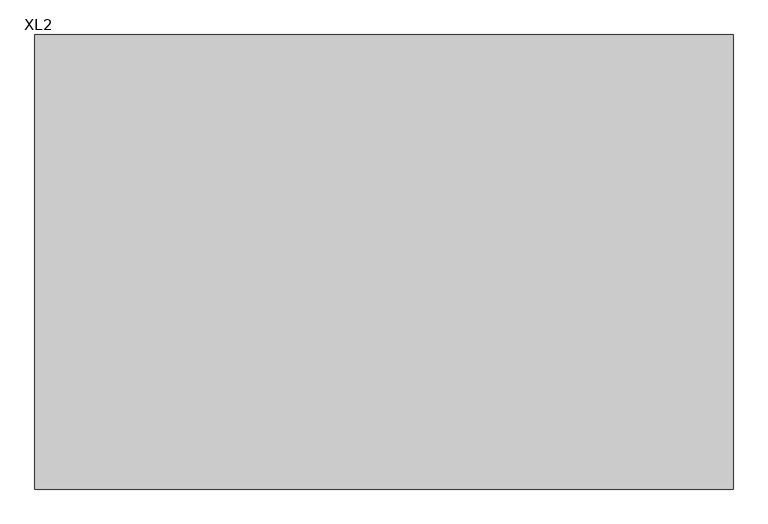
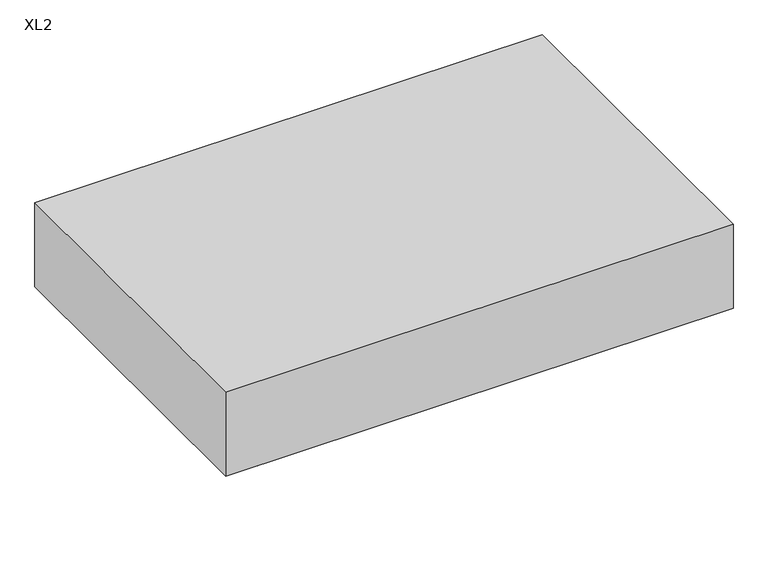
"""IFC4 building model written with IfcOpenShell, lengths in millimetres: proxy geometry, OWA Corpus : XL2."""

from ifc_helpers import new_model, si_unit, point, frame, frame_2d, origin, place, context, project, spatial, polyline, circle_curve, trimmed, segment, composite_curve, outline, extrude, faceted_brep, source, transform, mapped, element, save
from ifc_brep_helpers import plane_surface, cylinder_surface, revolved_surface, advanced_brep


def xl2_f6d5a700(model_context):
    return source(origin(), model_context, "Body", "SolidModel", [
        advanced_brep(
        [(-1043.5, -305.0, 0.0), (-1035.7593825, -305.0, 0.0), (-1051.2406175, -305.0, 0.0), (-1035.7593825, -305.0, 15.0), (-1051.2406175, -305.0, 15.0), (-1036.6843825, -305.0, 15.0), (-1050.3156175, -305.0, 15.0), (-1036.6843825, -305.0, 19.0), (-1050.3156175, -305.0, 19.0), (-1041.4343825, -305.0, 19.0), (-1045.5656175, -305.0, 19.0), (-1041.4343825, -305.0, 22.546183), (-1045.5656175, -305.0, 22.546183), (-1043.5, -305.0, 22.546183)],
        [
            (0, 1),
            (1, 2, circle_curve(frame((-1043.5, -305.0, 0.0), z_axis=(0.0, 0.0, -1.0), x_axis=(-1.0, 0.0, 0.0)), 7.7406175)),
            (2, 0),
            (2, 1, circle_curve(frame((-1043.5, -305.0, 0.0), z_axis=(0.0, 0.0, -1.0), x_axis=(-1.0, 0.0, 0.0)), 7.7406175)),
            (1, 3),
            (3, 4, circle_curve(frame((-1043.5, -305.0, 15.0), z_axis=(0.0, 0.0, -1.0), x_axis=(-1.0, 0.0, 0.0)), 7.7406175)),
            (4, 2),
            (4, 3, circle_curve(frame((-1043.5, -305.0, 15.0), z_axis=(0.0, 0.0, -1.0), x_axis=(-1.0, 0.0, 0.0)), 7.7406175)),
            (3, 5),
            (5, 6, circle_curve(frame((-1043.5, -305.0, 15.0), z_axis=(0.0, 0.0, -1.0), x_axis=(-1.0, 0.0, 0.0)), 6.8156175)),
            (6, 4),
            (6, 5, circle_curve(frame((-1043.5, -305.0, 15.0), z_axis=(0.0, 0.0, -1.0), x_axis=(-1.0, 0.0, 0.0)), 6.8156175)),
            (5, 7),
            (7, 8, circle_curve(frame((-1043.5, -305.0, 19.0), z_axis=(0.0, 0.0, -1.0), x_axis=(-1.0, 0.0, 0.0)), 6.8156175)),
            (8, 6),
            (8, 7, circle_curve(frame((-1043.5, -305.0, 19.0), z_axis=(0.0, 0.0, -1.0), x_axis=(-1.0, 0.0, 0.0)), 6.8156175)),
            (7, 9),
            (9, 10, circle_curve(frame((-1043.5, -305.0, 19.0), z_axis=(0.0, 0.0, -1.0), x_axis=(-1.0, 0.0, 0.0)), 2.0656175)),
            (10, 8),
            (10, 9, circle_curve(frame((-1043.5, -305.0, 19.0), z_axis=(0.0, 0.0, -1.0), x_axis=(-1.0, 0.0, 0.0)), 2.0656175)),
            (9, 11),
            (11, 12, circle_curve(frame((-1043.5, -305.0, 22.546183), z_axis=(0.0, 0.0, -1.0), x_axis=(-1.0, 0.0, 0.0)), 2.0656175)),
            (12, 10),
            (12, 11, circle_curve(frame((-1043.5, -305.0, 22.546183), z_axis=(0.0, 0.0, -1.0), x_axis=(-1.0, 0.0, 0.0)), 2.0656175)),
            (11, 13),
            (13, 12),
        ],
        [
            plane_surface(frame((-1043.5, -305.0, 0.0), z_axis=(0.0, 0.0, -1.0), x_axis=(-1.0, 0.0, 0.0))),
            cylinder_surface(frame((-1043.5, -305.0, -10.0), z_axis=(0.0, 0.0, -1.0), x_axis=(-1.0, 0.0, 0.0)), 7.7406175),
            plane_surface(frame((-1043.5, -305.0, 15.0), z_axis=(0.0, 0.0, 1.0), x_axis=(-1.0, 0.0, 0.0))),
            cylinder_surface(frame((-1043.5, -305.0, -10.0), z_axis=(0.0, 0.0, -1.0), x_axis=(-1.0, 0.0, 0.0)), 6.8156175),
            plane_surface(frame((-1043.5, -305.0, 19.0), z_axis=(0.0, 0.0, 1.0), x_axis=(-1.0, 0.0, 0.0))),
            cylinder_surface(frame((-1043.5, -305.0, -10.0), z_axis=(0.0, 0.0, -1.0), x_axis=(-1.0, 0.0, 0.0)), 2.0656175),
            plane_surface(frame((-1043.5, -305.0, 22.546183), z_axis=(0.0, 0.0, 1.0), x_axis=(-1.0, 0.0, 0.0))),
        ],
        [
            (0, [[1, 2, 3]]),
            (0, [[-3, 4, -1]]),
            (1, [[5, 6, 7, -2]]),
            (1, [[-7, 8, -5, -4]]),
            (2, [[9, 10, 11, -6]]),
            (2, [[-11, 12, -9, -8]]),
            (3, [[13, 14, 15, -10]]),
            (3, [[-15, 16, -13, -12]]),
            (4, [[17, 18, 19, -14]]),
            (4, [[-19, 20, -17, -16]]),
            (5, [[21, 22, 23, -18]]),
            (5, [[-23, 24, -21, -20]]),
            (6, [[25, 26, -22]]),
            (6, [[-26, -25, -24]]),
        ],
    ),
        advanced_brep(
        [(-1041.2615389, -305.0, 428.8211737), (-1041.1339453, -305.0, 432.8711737), (-1045.8660547, -305.0, 432.8711737), (-1045.7384611, -305.0, 428.8211737), (-1038.6339453, -305.0, 432.8711737), (-1048.3660547, -305.0, 432.8711737), (-1038.6339453, -305.0, 458.1211737), (-1048.3660547, -305.0, 458.1211737), (-1027.6339453, -305.0, 458.1211737), (-1059.3660547, -305.0, 458.1211737), (-1027.6339453, -305.0, 460.0), (-1059.3660547, -305.0, 460.0), (-1043.5, -305.0, 460.0), (-1043.5, -305.0, 428.8211737)],
        [
            (0, 1),
            (1, 2, circle_curve(frame((-1043.5, -305.0, 432.8711737), z_axis=(0.0, 0.0, -1.0), x_axis=(-1.0, 0.0, 0.0)), 2.3660547)),
            (2, 3),
            (3, 0, circle_curve(frame((-1043.5, -305.0, 428.8211737), z_axis=(0.0, 0.0, 1.0), x_axis=(-1.0, 0.0, 0.0)), 2.2384611)),
            (2, 1, circle_curve(frame((-1043.5, -305.0, 432.8711737), z_axis=(0.0, 0.0, -1.0), x_axis=(-1.0, 0.0, 0.0)), 2.3660547)),
            (0, 3, circle_curve(frame((-1043.5, -305.0, 428.8211737), z_axis=(0.0, 0.0, 1.0), x_axis=(-1.0, 0.0, 0.0)), 2.2384611)),
            (1, 4),
            (4, 5, circle_curve(frame((-1043.5, -305.0, 432.8711737), z_axis=(0.0, 0.0, -1.0), x_axis=(-1.0, 0.0, 0.0)), 4.8660547)),
            (5, 2),
            (5, 4, circle_curve(frame((-1043.5, -305.0, 432.8711737), z_axis=(0.0, 0.0, -1.0), x_axis=(-1.0, 0.0, 0.0)), 4.8660547)),
            (4, 6),
            (6, 7, circle_curve(frame((-1043.5, -305.0, 458.1211737), z_axis=(0.0, 0.0, -1.0), x_axis=(-1.0, 0.0, 0.0)), 4.8660547)),
            (7, 5),
            (7, 6, circle_curve(frame((-1043.5, -305.0, 458.1211737), z_axis=(0.0, 0.0, -1.0), x_axis=(-1.0, 0.0, 0.0)), 4.8660547)),
            (6, 8),
            (8, 9, circle_curve(frame((-1043.5, -305.0, 458.1211737), z_axis=(0.0, 0.0, -1.0), x_axis=(-1.0, 0.0, 0.0)), 15.8660547)),
            (9, 7),
            (9, 8, circle_curve(frame((-1043.5, -305.0, 458.1211737), z_axis=(0.0, 0.0, -1.0), x_axis=(-1.0, 0.0, 0.0)), 15.8660547)),
            (8, 10),
            (10, 11, circle_curve(frame((-1043.5, -305.0, 460.0), z_axis=(0.0, 0.0, -1.0), x_axis=(-1.0, 0.0, 0.0)), 15.8660547)),
            (11, 9),
            (11, 10, circle_curve(frame((-1043.5, -305.0, 460.0), z_axis=(0.0, 0.0, -1.0), x_axis=(-1.0, 0.0, 0.0)), 15.8660547)),
            (10, 12),
            (12, 11),
            (13, 0),
            (3, 13),
        ],
        [
            revolved_surface(polyline([(-1045.8660547, -305.0, 432.8711737), (-1045.7384611, -305.0, 428.8211737)]), (-1043.5, -305.0, 461.8401096), (0.0, 0.0, -1.0)),
            plane_surface(frame((-1043.5, -305.0, 432.8711737), z_axis=(0.0, 0.0, -1.0), x_axis=(-1.0, 0.0, 0.0))),
            cylinder_surface(frame((-1043.5, -305.0, 461.8401096), z_axis=(0.0, 0.0, -1.0), x_axis=(-1.0, 0.0, 0.0)), 4.8660547),
            plane_surface(frame((-1043.5, -305.0, 458.1211737), z_axis=(0.0, 0.0, -1.0), x_axis=(-1.0, 0.0, 0.0))),
            cylinder_surface(frame((-1043.5, -305.0, 461.8401096), z_axis=(0.0, 0.0, -1.0), x_axis=(-1.0, 0.0, 0.0)), 15.8660547),
            plane_surface(frame((-1043.5, -305.0, 460.0), z_axis=(0.0, 0.0, 1.0), x_axis=(-1.0, 0.0, 0.0))),
            plane_surface(frame((-1043.5, -305.0, 428.8211737), z_axis=(0.0, 0.0, -1.0), x_axis=(-1.0, 0.0, 0.0))),
        ],
        [
            (0, [[1, 2, 3, 4]]),
            (0, [[-3, 5, -1, 6]]),
            (1, [[7, 8, 9, -2]]),
            (1, [[-9, 10, -7, -5]]),
            (2, [[11, 12, 13, -8]]),
            (2, [[-13, 14, -11, -10]]),
            (3, [[15, 16, 17, -12]]),
            (3, [[-17, 18, -15, -14]]),
            (4, [[19, 20, 21, -16]]),
            (4, [[-21, 22, -19, -18]]),
            (5, [[23, 24, -20]]),
            (5, [[-24, -23, -22]]),
            (6, [[25, -4, 26]]),
            (6, [[-26, -6, -25]]),
        ],
    ),
        extrude(outline(composite_curve([segment(trimmed(circle_curve(frame_2d((-1043.5, -305.0)), 1.0), [point((-1044.5, -305.0))], [point((-1042.5, -305.0))], False, "CARTESIAN"), True, "CONTINUOUS"), segment(trimmed(circle_curve(frame_2d((-1043.5, -305.0)), 1.0), [point((-1042.5, -305.0))], [point((-1044.5, -305.0))], False, "CARTESIAN"), True, "CONTINUOUS")], self_intersect=False)), frame((0.0, 0.0, 22.546183), z_axis=(0.0, 0.0, 1.0), x_axis=(1.0, 0.0, 0.0)), (0.0, 0.0, 1.0), 406.2749908),
        advanced_brep(
        [(-1043.5, 305.0, 0.0), (-1051.2406175, 305.0, 0.0), (-1035.7593825, 305.0, 0.0), (-1051.2406175, 305.0, 15.0), (-1035.7593825, 305.0, 15.0), (-1050.3156175, 305.0, 15.0), (-1036.6843825, 305.0, 15.0), (-1050.3156175, 305.0, 19.0), (-1036.6843825, 305.0, 19.0), (-1045.5656175, 305.0, 19.0), (-1041.4343825, 305.0, 19.0), (-1045.5656175, 305.0, 22.546183), (-1041.4343825, 305.0, 22.546183), (-1043.5, 305.0, 22.546183)],
        [
            (0, 1),
            (1, 2, circle_curve(frame((-1043.5, 305.0, 0.0), z_axis=(0.0, 0.0, -1.0), x_axis=(-1.0, 0.0, 0.0)), 7.7406175)),
            (2, 0),
            (2, 1, circle_curve(frame((-1043.5, 305.0, 0.0), z_axis=(0.0, 0.0, -1.0), x_axis=(-1.0, 0.0, 0.0)), 7.7406175)),
            (1, 3),
            (3, 4, circle_curve(frame((-1043.5, 305.0, 15.0), z_axis=(0.0, 0.0, -1.0), x_axis=(-1.0, 0.0, 0.0)), 7.7406175)),
            (4, 2),
            (4, 3, circle_curve(frame((-1043.5, 305.0, 15.0), z_axis=(0.0, 0.0, -1.0), x_axis=(-1.0, 0.0, 0.0)), 7.7406175)),
            (3, 5),
            (5, 6, circle_curve(frame((-1043.5, 305.0, 15.0), z_axis=(0.0, 0.0, -1.0), x_axis=(-1.0, 0.0, 0.0)), 6.8156175)),
            (6, 4),
            (6, 5, circle_curve(frame((-1043.5, 305.0, 15.0), z_axis=(0.0, 0.0, -1.0), x_axis=(-1.0, 0.0, 0.0)), 6.8156175)),
            (5, 7),
            (7, 8, circle_curve(frame((-1043.5, 305.0, 19.0), z_axis=(0.0, 0.0, -1.0), x_axis=(-1.0, 0.0, 0.0)), 6.8156175)),
            (8, 6),
            (8, 7, circle_curve(frame((-1043.5, 305.0, 19.0), z_axis=(0.0, 0.0, -1.0), x_axis=(-1.0, 0.0, 0.0)), 6.8156175)),
            (7, 9),
            (9, 10, circle_curve(frame((-1043.5, 305.0, 19.0), z_axis=(0.0, 0.0, -1.0), x_axis=(-1.0, 0.0, 0.0)), 2.0656175)),
            (10, 8),
            (10, 9, circle_curve(frame((-1043.5, 305.0, 19.0), z_axis=(0.0, 0.0, -1.0), x_axis=(-1.0, 0.0, 0.0)), 2.0656175)),
            (9, 11),
            (11, 12, circle_curve(frame((-1043.5, 305.0, 22.546183), z_axis=(0.0, 0.0, -1.0), x_axis=(-1.0, 0.0, 0.0)), 2.0656175)),
            (12, 10),
            (12, 11, circle_curve(frame((-1043.5, 305.0, 22.546183), z_axis=(0.0, 0.0, -1.0), x_axis=(-1.0, 0.0, 0.0)), 2.0656175)),
            (11, 13),
            (13, 12),
        ],
        [
            plane_surface(frame((-1043.5, 305.0, 0.0), z_axis=(0.0, 0.0, -1.0), x_axis=(-1.0, 0.0, 0.0))),
            cylinder_surface(frame((-1043.5, 305.0, -10.0), z_axis=(0.0, 0.0, -1.0), x_axis=(-1.0, 0.0, 0.0)), 7.7406175),
            plane_surface(frame((-1043.5, 305.0, 15.0), z_axis=(0.0, 0.0, 1.0), x_axis=(-1.0, 0.0, 0.0))),
            cylinder_surface(frame((-1043.5, 305.0, -10.0), z_axis=(0.0, 0.0, -1.0), x_axis=(-1.0, 0.0, 0.0)), 6.8156175),
            plane_surface(frame((-1043.5, 305.0, 19.0), z_axis=(0.0, 0.0, 1.0), x_axis=(-1.0, 0.0, 0.0))),
            cylinder_surface(frame((-1043.5, 305.0, -10.0), z_axis=(0.0, 0.0, -1.0), x_axis=(-1.0, 0.0, 0.0)), 2.0656175),
            plane_surface(frame((-1043.5, 305.0, 22.546183), z_axis=(0.0, 0.0, 1.0), x_axis=(-1.0, 0.0, 0.0))),
        ],
        [
            (0, [[1, 2, 3]]),
            (0, [[-3, 4, -1]]),
            (1, [[-2, 5, 6, 7]]),
            (1, [[-4, -7, 8, -5]]),
            (2, [[-6, 9, 10, 11]]),
            (2, [[-8, -11, 12, -9]]),
            (3, [[-10, 13, 14, 15]]),
            (3, [[-12, -15, 16, -13]]),
            (4, [[-14, 17, 18, 19]]),
            (4, [[-16, -19, 20, -17]]),
            (5, [[-18, 21, 22, 23]]),
            (5, [[-20, -23, 24, -21]]),
            (6, [[-22, 25, 26]]),
            (6, [[-24, -26, -25]]),
        ],
    ),
        advanced_brep(
        [(-1041.2615389, 305.0, 428.8211737), (-1045.7384611, 305.0, 428.8211737), (-1045.8660547, 305.0, 432.8711737), (-1041.1339453, 305.0, 432.8711737), (-1048.3660547, 305.0, 432.8711737), (-1038.6339453, 305.0, 432.8711737), (-1048.3660547, 305.0, 458.1211737), (-1038.6339453, 305.0, 458.1211737), (-1059.3660547, 305.0, 458.1211737), (-1027.6339453, 305.0, 458.1211737), (-1059.3660547, 305.0, 460.0), (-1027.6339453, 305.0, 460.0), (-1043.5, 305.0, 460.0), (-1043.5, 305.0, 428.8211737)],
        [
            (0, 1, circle_curve(frame((-1043.5, 305.0, 428.8211737), z_axis=(0.0, 0.0, 1.0), x_axis=(-1.0, 0.0, 0.0)), 2.2384611)),
            (1, 2),
            (2, 3, circle_curve(frame((-1043.5, 305.0, 432.8711737), z_axis=(0.0, 0.0, -1.0), x_axis=(-1.0, 0.0, 0.0)), 2.3660547)),
            (3, 0),
            (1, 0, circle_curve(frame((-1043.5, 305.0, 428.8211737), z_axis=(0.0, 0.0, 1.0), x_axis=(-1.0, 0.0, 0.0)), 2.2384611)),
            (3, 2, circle_curve(frame((-1043.5, 305.0, 432.8711737), z_axis=(0.0, 0.0, -1.0), x_axis=(-1.0, 0.0, 0.0)), 2.3660547)),
            (2, 4),
            (4, 5, circle_curve(frame((-1043.5, 305.0, 432.8711737), z_axis=(0.0, 0.0, -1.0), x_axis=(-1.0, 0.0, 0.0)), 4.8660547)),
            (5, 3),
            (5, 4, circle_curve(frame((-1043.5, 305.0, 432.8711737), z_axis=(0.0, 0.0, -1.0), x_axis=(-1.0, 0.0, 0.0)), 4.8660547)),
            (4, 6),
            (6, 7, circle_curve(frame((-1043.5, 305.0, 458.1211737), z_axis=(0.0, 0.0, -1.0), x_axis=(-1.0, 0.0, 0.0)), 4.8660547)),
            (7, 5),
            (7, 6, circle_curve(frame((-1043.5, 305.0, 458.1211737), z_axis=(0.0, 0.0, -1.0), x_axis=(-1.0, 0.0, 0.0)), 4.8660547)),
            (6, 8),
            (8, 9, circle_curve(frame((-1043.5, 305.0, 458.1211737), z_axis=(0.0, 0.0, -1.0), x_axis=(-1.0, 0.0, 0.0)), 15.8660547)),
            (9, 7),
            (9, 8, circle_curve(frame((-1043.5, 305.0, 458.1211737), z_axis=(0.0, 0.0, -1.0), x_axis=(-1.0, 0.0, 0.0)), 15.8660547)),
            (8, 10),
            (10, 11, circle_curve(frame((-1043.5, 305.0, 460.0), z_axis=(0.0, 0.0, -1.0), x_axis=(-1.0, 0.0, 0.0)), 15.8660547)),
            (11, 9),
            (11, 10, circle_curve(frame((-1043.5, 305.0, 460.0), z_axis=(0.0, 0.0, -1.0), x_axis=(-1.0, 0.0, 0.0)), 15.8660547)),
            (10, 12),
            (12, 11),
            (13, 1),
            (0, 13),
        ],
        [
            revolved_surface(polyline([(-1045.8660547, 305.0, 432.8711737), (-1045.7384611, 305.0, 428.8211737)]), (-1043.5, 305.0, 461.8401096), (0.0, 0.0, -1.0)),
            plane_surface(frame((-1043.5, 305.0, 432.8711737), z_axis=(0.0, 0.0, -1.0), x_axis=(-1.0, 0.0, 0.0))),
            cylinder_surface(frame((-1043.5, 305.0, 461.8401096), z_axis=(0.0, 0.0, -1.0), x_axis=(-1.0, 0.0, 0.0)), 4.8660547),
            plane_surface(frame((-1043.5, 305.0, 458.1211737), z_axis=(0.0, 0.0, -1.0), x_axis=(-1.0, 0.0, 0.0))),
            cylinder_surface(frame((-1043.5, 305.0, 461.8401096), z_axis=(0.0, 0.0, -1.0), x_axis=(-1.0, 0.0, 0.0)), 15.8660547),
            plane_surface(frame((-1043.5, 305.0, 460.0), z_axis=(0.0, 0.0, 1.0), x_axis=(-1.0, 0.0, 0.0))),
            plane_surface(frame((-1043.5, 305.0, 428.8211737), z_axis=(0.0, 0.0, -1.0), x_axis=(-1.0, 0.0, 0.0))),
        ],
        [
            (0, [[1, 2, 3, 4]]),
            (0, [[5, -4, 6, -2]]),
            (1, [[-3, 7, 8, 9]]),
            (1, [[-6, -9, 10, -7]]),
            (2, [[-8, 11, 12, 13]]),
            (2, [[-10, -13, 14, -11]]),
            (3, [[-12, 15, 16, 17]]),
            (3, [[-14, -17, 18, -15]]),
            (4, [[-16, 19, 20, 21]]),
            (4, [[-18, -21, 22, -19]]),
            (5, [[-20, 23, 24]]),
            (5, [[-22, -24, -23]]),
            (6, [[25, -1, 26]]),
            (6, [[-26, -5, -25]]),
        ],
    ),
        extrude(outline(composite_curve([segment(trimmed(circle_curve(frame_2d((-1043.5, 305.0)), 1.0), [point((-1044.5, 305.0))], [point((-1042.5, 305.0))], False, "CARTESIAN"), True, "CONTINUOUS"), segment(trimmed(circle_curve(frame_2d((-1043.5, 305.0)), 1.0), [point((-1042.5, 305.0))], [point((-1044.5, 305.0))], False, "CARTESIAN"), True, "CONTINUOUS")], self_intersect=False)), frame((0.0, 0.0, 22.546183), z_axis=(0.0, 0.0, 1.0), x_axis=(1.0, 0.0, 0.0)), (0.0, 0.0, 1.0), 406.2749908),
        faceted_brep([(426.5, 560.0, 500.0), (-1293.5, 560.0, 500.0), (-1293.5, -560.0, 500.0), (426.5, -560.0, 500.0), (386.5, 520.0, 460.0), (386.5, -520.0, 460.0), (-1253.5, -520.0, 460.0), (-1253.5, 520.0, 460.0), (426.5, 560.0, 200.0), (-1293.5, 560.0, 200.0), (-1293.5, -560.0, 200.0), (426.5, -560.0, 200.0), (386.5, 520.0, 200.0), (-1253.5, 520.0, 200.0), (-1253.5, -520.0, 200.0), (386.5, -520.0, 200.0)], [[[0, 1, 2, 3]], [[4, 5, 6, 7]], [[1, 0, 8, 9]], [[2, 1, 9, 10]], [[3, 2, 10, 11]], [[8, 0, 3, 11]], [[8, 11, 10, 9], [12, 13, 14, 15]], [[12, 15, 5, 4]], [[15, 14, 6, 5]], [[14, 13, 7, 6]], [[13, 12, 4, 7]]]),
    ])


if __name__ == "__main__":
    model = new_model("IFC4")
    model_context = context("Model", 3, world=origin())
    ifc_project = project(units=[si_unit("LENGTHUNIT", "METRE", prefix="MILLI")], contexts=[model_context])
    site = spatial("IfcSite", under=ifc_project)
    building = spatial("IfcBuilding", under=site)
    placement = place(None, origin())
    xl2_shape = xl2_f6d5a700(model_context)
    element("IfcBuildingElementProxy", 1, Name="OWA Corpus : XL2", ObjectType="OWA Corpus : XL2", at=placement, inside=building, context=model_context, shape_type="MappedRepresentation", body=[
        mapped(xl2_shape, transform((0.0, 0.0, 0.0), x_axis=(1.0, 0.0, 0.0), y_axis=(0.0, 1.0, 0.0), z_axis=(0.0, 0.0, 1.0))),
    ])
    save(model, "model.ifc")
